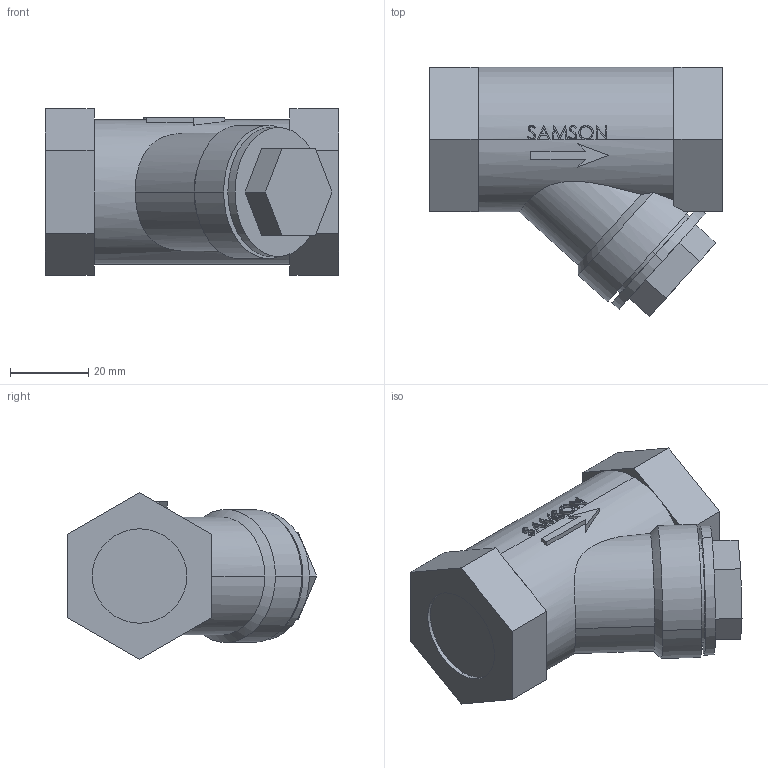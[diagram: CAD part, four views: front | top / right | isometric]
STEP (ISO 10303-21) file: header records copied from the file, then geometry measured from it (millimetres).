
FILE_DESCRIPTION (( 'STEP AP203' ), '1' );
FILE_NAME ('2601_1NI_DIN_Gz3-4_025_CC754S_IGWD_std.STEP', '2010-05-25T08:06:48', ( '' ), ( '' ), 'SwSTEP 2.0', 'SolidWorks 2006303', '' );
FILE_SCHEMA (( 'CONFIG_CONTROL_DESIGN' ));
Length unit declared in the file: millimetre
Products named in the file (3): 2601_1NI_DIN_Gz3-4_025_CC754S_IGWD_std; Gewindestopfen_Gz3-4_00700164_Standard; Geh2601_1NI_DIN_Gz3-4_025_CC754S_IGWD_01000446_Standard
Assembly tree (2 placements, depth 2):
  2601_1NI_DIN_Gz3-4_025_CC754S_IGWD_std
    Geh2601_1NI_DIN_Gz3-4_025_CC754S_IGWD_01000446_Standard
    Gewindestopfen_Gz3-4_00700164_Standard
Bounding box: 75 x 63.69 x 42.61 mm (x, y, z)
Volume: 105800.5 mm3; surface area: 16839.8 mm2
Topology: 2 solids, 2 shells, 153 faces, 398 edges, 257 vertices
Faces by surface type: plane 92, bspline 38, cylinder 22, cone 1
Entity records: 6802 total; most frequent: CARTESIAN_POINT 3091, ORIENTED_EDGE 796, DIRECTION 567, EDGE_CURVE 398, VERTEX_POINT 257, VECTOR 233, LINE 233, AXIS2_PLACEMENT_3D 167
